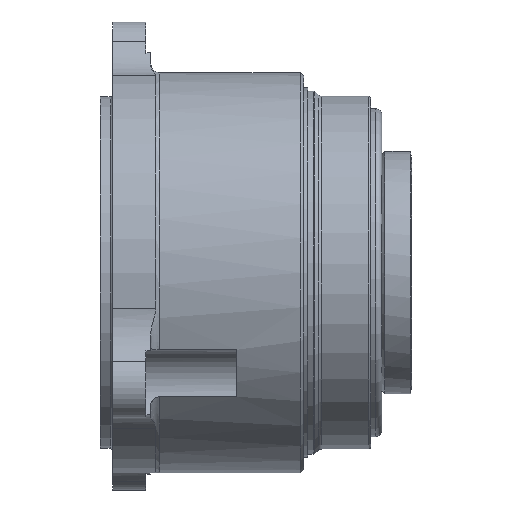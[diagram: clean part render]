
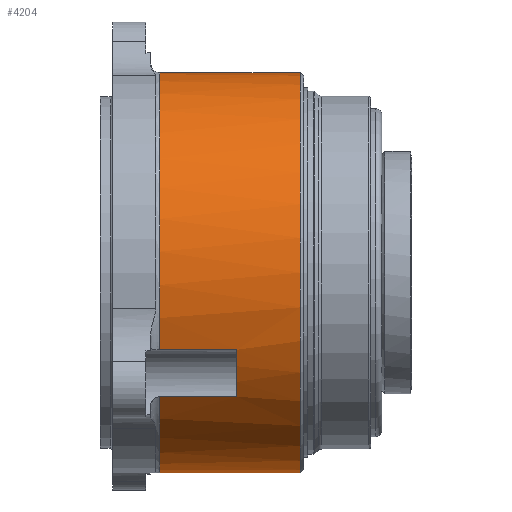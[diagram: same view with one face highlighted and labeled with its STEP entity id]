
A CAD part, left-side view. The second image highlights one B-rep face of the part: STEP entity #4204.
In plain terms, the highlighted cylindrical face has radius 33.528 mm (diameter 67.056 mm), a full revolution.
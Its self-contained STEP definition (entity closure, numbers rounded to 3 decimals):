
#90=CYLINDRICAL_SURFACE('',#4463,33.528);
#100=CIRCLE('',#4301,33.528);
#105=CIRCLE('',#4308,33.528);
#110=CIRCLE('',#4315,33.528);
#115=CIRCLE('',#4322,33.528);
#175=CIRCLE('',#4421,33.528);
#184=CIRCLE('',#4440,33.528);
#188=CIRCLE('',#4447,33.528);
#192=CIRCLE('',#4452,33.528);
#387=LINE('',#6760,#568);
#388=LINE('',#6761,#569);
#393=LINE('',#6816,#574);
#394=LINE('',#6817,#575);
#396=LINE('',#6845,#577);
#397=LINE('',#6846,#578);
#425=LINE('',#7256,#606);
#568=VECTOR('',#4788,1000.);
#569=VECTOR('',#4789,1000.);
#574=VECTOR('',#4808,1000.);
#575=VECTOR('',#4809,1000.);
#577=VECTOR('',#4825,1000.);
#578=VECTOR('',#4826,1000.);
#606=VECTOR('',#5018,1000.);
#1232=ORIENTED_EDGE('',*,*,#1604,.F.);
#1233=ORIENTED_EDGE('',*,*,#1572,.T.);
#1234=ORIENTED_EDGE('',*,*,#1728,.T.);
#1235=ORIENTED_EDGE('',*,*,#1599,.F.);
#1236=ORIENTED_EDGE('',*,*,#1593,.F.);
#1237=ORIENTED_EDGE('',*,*,#1598,.T.);
#1238=ORIENTED_EDGE('',*,*,#1724,.T.);
#1239=ORIENTED_EDGE('',*,*,#1589,.F.);
#1240=ORIENTED_EDGE('',*,*,#1578,.F.);
#1241=ORIENTED_EDGE('',*,*,#1588,.T.);
#1242=ORIENTED_EDGE('',*,*,#1713,.T.);
#1243=ORIENTED_EDGE('',*,*,#1698,.F.);
#1244=ORIENTED_EDGE('',*,*,#1732,.T.);
#1245=ORIENTED_EDGE('',*,*,#1573,.F.);
#1246=ORIENTED_EDGE('',*,*,#1567,.F.);
#1567=EDGE_CURVE('',#1894,#1893,#100,.T.);
#1572=EDGE_CURVE('',#1894,#1899,#387,.T.);
#1573=EDGE_CURVE('',#1893,#1900,#388,.T.);
#1578=EDGE_CURVE('',#1904,#1903,#105,.T.);
#1588=EDGE_CURVE('',#1904,#1914,#393,.T.);
#1589=EDGE_CURVE('',#1903,#1915,#394,.T.);
#1593=EDGE_CURVE('',#1918,#1917,#110,.T.);
#1598=EDGE_CURVE('',#1918,#1923,#396,.T.);
#1599=EDGE_CURVE('',#1917,#1924,#397,.T.);
#1604=EDGE_CURVE('',#1928,#1928,#115,.T.);
#1698=EDGE_CURVE('',#1996,#1987,#425,.T.);
#1713=EDGE_CURVE('',#1914,#1987,#175,.T.);
#1724=EDGE_CURVE('',#1923,#1915,#184,.T.);
#1728=EDGE_CURVE('',#1899,#1924,#188,.T.);
#1732=EDGE_CURVE('',#1996,#1900,#192,.T.);
#1893=VERTEX_POINT('',#6743);
#1894=VERTEX_POINT('',#6744);
#1899=VERTEX_POINT('',#6759);
#1900=VERTEX_POINT('',#6762);
#1903=VERTEX_POINT('',#6774);
#1904=VERTEX_POINT('',#6775);
#1914=VERTEX_POINT('',#6815);
#1915=VERTEX_POINT('',#6818);
#1917=VERTEX_POINT('',#6828);
#1918=VERTEX_POINT('',#6829);
#1923=VERTEX_POINT('',#6844);
#1924=VERTEX_POINT('',#6847);
#1928=VERTEX_POINT('',#6861);
#1987=VERTEX_POINT('',#7179);
#1996=VERTEX_POINT('',#7255);
#2315=EDGE_LOOP('',(#1232));
#2316=EDGE_LOOP('',(#1233,#1234,#1235,#1236,#1237,#1238,#1239,#1240,#1241,
#1242,#1243,#1244,#1245,#1246));
#2588=FACE_BOUND('',#2315,.T.);
#2589=FACE_BOUND('',#2316,.T.);
#4204=ADVANCED_FACE('',(#2588,#2589),#90,.T.);
#4301=AXIS2_PLACEMENT_3D('',#6745,#4779,#4780);
#4308=AXIS2_PLACEMENT_3D('',#6776,#4797,#4798);
#4315=AXIS2_PLACEMENT_3D('',#6830,#4816,#4817);
#4322=AXIS2_PLACEMENT_3D('',#6860,#4834,#4835);
#4421=AXIS2_PLACEMENT_3D('',#7299,#5061,#5062);
#4440=AXIS2_PLACEMENT_3D('',#7327,#5101,#5102);
#4447=AXIS2_PLACEMENT_3D('',#7334,#5115,#5116);
#4452=AXIS2_PLACEMENT_3D('',#7339,#5125,#5126);
#4463=AXIS2_PLACEMENT_3D('',#7350,#5147,#5148);
#4779=DIRECTION('',(0.,1.,0.));
#4780=DIRECTION('',(0.,0.,1.));
#4788=DIRECTION('',(0.,1.,0.));
#4789=DIRECTION('',(0.,1.,0.));
#4797=DIRECTION('',(0.,1.,0.));
#4798=DIRECTION('',(0.,0.,1.));
#4808=DIRECTION('',(0.,1.,0.));
#4809=DIRECTION('',(0.,1.,0.));
#4816=DIRECTION('',(0.,1.,0.));
#4817=DIRECTION('',(0.,0.,1.));
#4825=DIRECTION('',(0.,1.,0.));
#4826=DIRECTION('',(0.,1.,0.));
#4834=DIRECTION('',(0.,-1.,0.));
#4835=DIRECTION('',(0.,0.,-1.));
#5018=DIRECTION('',(0.,-1.,0.));
#5061=DIRECTION('',(0.,-1.,0.));
#5062=DIRECTION('',(0.,0.,-1.));
#5101=DIRECTION('',(0.,-1.,0.));
#5102=DIRECTION('',(0.,0.,-1.));
#5115=DIRECTION('',(0.,-1.,0.));
#5116=DIRECTION('',(0.,0.,-1.));
#5125=DIRECTION('',(0.,-1.,0.));
#5126=DIRECTION('',(0.,0.,-1.));
#5147=DIRECTION('',(0.,-1.,0.));
#5148=DIRECTION('',(0.,0.,-1.));
#6743=CARTESIAN_POINT('',(10.259,13.716,31.92));
#6744=CARTESIAN_POINT('',(1.277,13.716,33.504));
#6745=CARTESIAN_POINT('',(0.,13.716,0.));
#6759=CARTESIAN_POINT('',(1.277,26.67,33.504));
#6760=CARTESIAN_POINT('',(1.277,21.336,33.504));
#6761=CARTESIAN_POINT('',(10.259,21.336,31.92));
#6762=CARTESIAN_POINT('',(10.259,26.67,31.92));
#6774=CARTESIAN_POINT('',(14.53,13.716,-30.216));
#6775=CARTESIAN_POINT('',(22.136,13.716,-25.182));
#6776=CARTESIAN_POINT('',(0.,13.716,0.));
#6815=CARTESIAN_POINT('',(22.136,14.529,-25.182));
#6816=CARTESIAN_POINT('',(22.136,21.336,-25.182));
#6817=CARTESIAN_POINT('',(14.53,21.336,-30.216));
#6818=CARTESIAN_POINT('',(14.53,26.67,-30.216));
#6828=CARTESIAN_POINT('',(-30.935,13.716,-12.929));
#6829=CARTESIAN_POINT('',(-26.306,13.716,-20.788));
#6830=CARTESIAN_POINT('',(0.,13.716,0.));
#6844=CARTESIAN_POINT('',(-26.306,26.67,-20.788));
#6845=CARTESIAN_POINT('',(-26.306,21.336,-20.788));
#6846=CARTESIAN_POINT('',(-30.935,21.336,-12.929));
#6847=CARTESIAN_POINT('',(-30.935,26.67,-12.929));
#6860=CARTESIAN_POINT('',(0.,3.048,0.));
#6861=CARTESIAN_POINT('',(0.,3.048,-33.528));
#7179=CARTESIAN_POINT('',(19.187,14.529,27.495));
#7255=CARTESIAN_POINT('',(19.187,26.67,27.495));
#7256=CARTESIAN_POINT('',(19.187,28.194,27.495));
#7299=CARTESIAN_POINT('',(0.,14.529,0.));
#7327=CARTESIAN_POINT('',(0.,26.67,0.));
#7334=CARTESIAN_POINT('',(0.,26.67,0.));
#7339=CARTESIAN_POINT('',(0.,26.67,0.));
#7350=CARTESIAN_POINT('',(0.,-60.008,0.));
